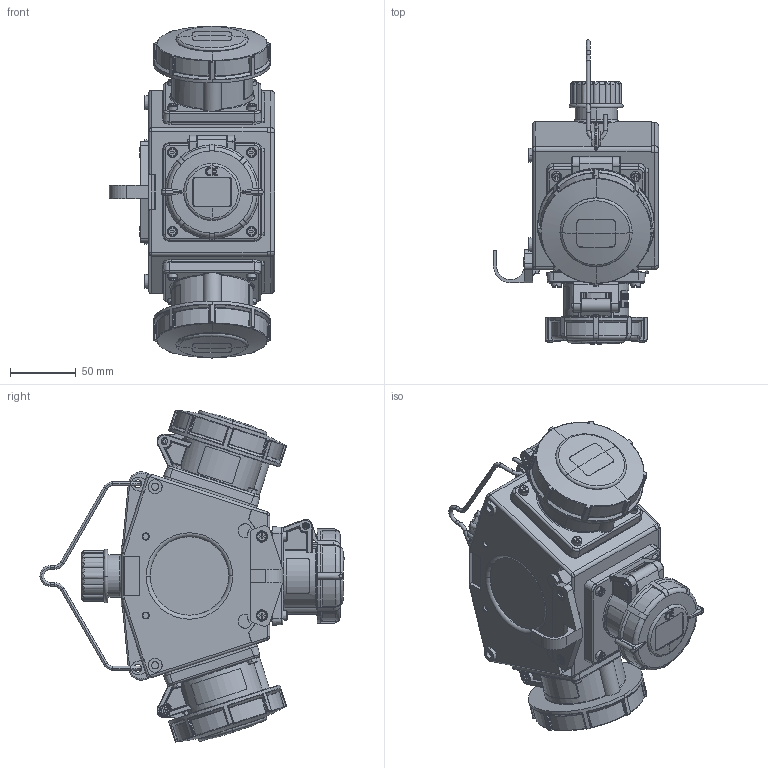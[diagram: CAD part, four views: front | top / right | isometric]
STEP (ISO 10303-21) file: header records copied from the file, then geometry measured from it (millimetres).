
FILE_DESCRIPTION((''),'2;1');
FILE_NAME('1116799_ASM_SW0001','2018-05-15T',('gisse'),('MENNEKES'),'PRO/ENGINEER BY PARAMETRIC TECHNOLOGY CORPORATION, 2015440','PRO/ENGINEER BY PARAMETRIC TECHNOLOGY CORPORATION, 2015440','');
FILE_SCHEMA(('AUTOMOTIVE_DESIGN { 1 0 10303 214 1 1 1 1 }'));
Products named in the file (1): 1116799_ASM_SW0001
Bounding box: 125.5 x 231.06 x 252.09 mm (x, y, z)
Volume: 2021160.2 mm3; surface area: 161545.2 mm2
Topology: 2 solids, 3 shells, 2912 faces, 7510 edges, 4699 vertices
Faces by surface type: plane 1333, cylinder 600, bspline 368, torus 281, cone 228, sphere 102
Entity records: 164782 total; most frequent: CARTESIAN_POINT 41118, ORIENTED_EDGE 14984, DIRECTION 12677, PRESENTATION_STYLE_ASSIGNMENT 10346, STYLED_ITEM 7494, CURVE_STYLE 7492, EDGE_CURVE 7492, FILL_AREA_STYLE_COLOUR 5674
